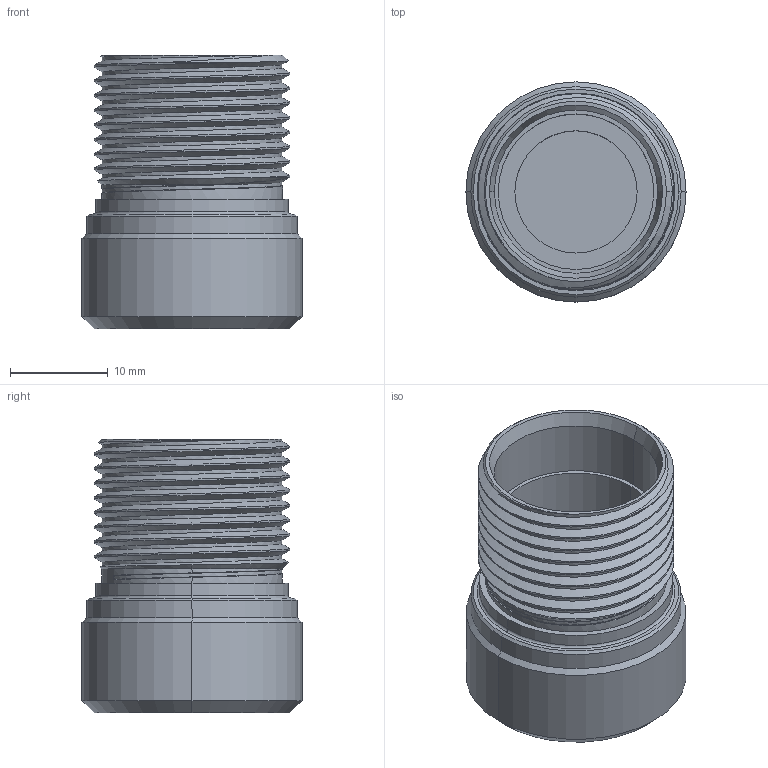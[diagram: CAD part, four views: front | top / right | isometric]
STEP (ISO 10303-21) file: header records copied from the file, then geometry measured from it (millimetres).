
FILE_DESCRIPTION (( 'STEP AP203' ), '1' );
FILE_NAME ('C14-1003 Cobalt 14 Dummy Cap.STEP', '2024-07-24T16:30:47', ( '' ), ( '' ), 'SwSTEP 2.0', 'SolidWorks 2022', '' );
FILE_SCHEMA (( 'CONFIG_CONTROL_DESIGN' ));
Length unit declared in the file: millimetre
Products named in the file (1): C14-1003 Cobalt 14 Dummy Cap
Bounding box: 22.5 x 22.5 x 28 mm (x, y, z)
Volume: 4856.9 mm3; surface area: 4100.3 mm2
Topology: 1 solids, 1 shells, 58 faces, 139 edges, 88 vertices
Faces by surface type: cylinder 32, cone 13, plane 8, bspline 3, torus 2
Entity records: 4715 total; most frequent: CARTESIAN_POINT 3386, ORIENTED_EDGE 278, DIRECTION 240, EDGE_CURVE 139, AXIS2_PLACEMENT_3D 99, VERTEX_POINT 88, EDGE_LOOP 63, FACE_OUTER_BOUND 58
